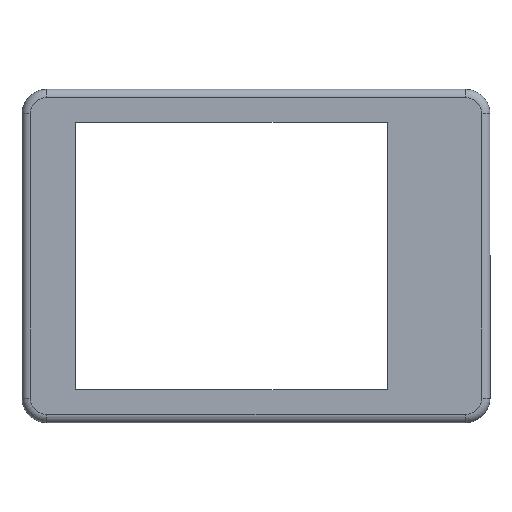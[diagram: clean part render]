
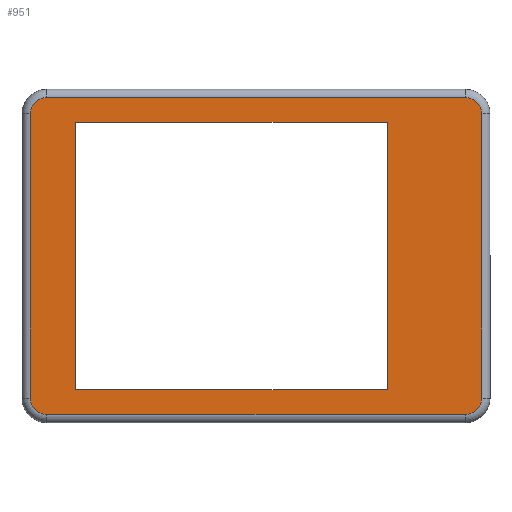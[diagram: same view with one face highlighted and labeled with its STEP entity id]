
A CAD part, top view. The second image highlights one B-rep face of the part: STEP entity #951.
In plain terms, the highlighted planar face has unit normal (0, 0, 1).
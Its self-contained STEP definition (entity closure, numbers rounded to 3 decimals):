
#12 = CARTESIAN_POINT ( 'NONE',  ( 0., 32.6, 8. ) ) ;
#14 = LINE ( 'NONE', #35, #762 ) ;
#31 = DIRECTION ( 'NONE',  ( -1., 0., 0. ) ) ;
#35 = CARTESIAN_POINT ( 'NONE',  ( 0., 32.6, 8. ) ) ;
#40 = LINE ( 'NONE', #12, #757 ) ;
#41 = DIRECTION ( 'NONE',  ( 0., -1., 0. ) ) ;
#149 = FACE_OUTER_BOUND ( 'NONE', #290, .T. ) ;
#150 = FACE_BOUND ( 'NONE', #280, .T. ) ;
#166 = DIRECTION ( 'NONE',  ( 1., 0., 0. ) ) ;
#172 = CARTESIAN_POINT ( 'NONE',  ( -3.5, -1., 8. ) ) ;
#179 = PLANE ( 'NONE',  #729 ) ;
#182 = DIRECTION ( 'NONE',  ( 0., 0., 1. ) ) ;
#280 = EDGE_LOOP ( 'NONE', ( #323, #344, #305, #354 ) ) ;
#290 = EDGE_LOOP ( 'NONE', ( #303, #330, #321, #325, #314, #350, #326, #304 ) ) ;
#303 = ORIENTED_EDGE ( 'NONE', *, *, #792, .T. ) ;
#304 = ORIENTED_EDGE ( 'NONE', *, *, #790, .T. ) ;
#305 = ORIENTED_EDGE ( 'NONE', *, *, #847, .F. ) ;
#314 = ORIENTED_EDGE ( 'NONE', *, *, #801, .T. ) ;
#321 = ORIENTED_EDGE ( 'NONE', *, *, #811, .T. ) ;
#323 = ORIENTED_EDGE ( 'NONE', *, *, #835, .F. ) ;
#325 = ORIENTED_EDGE ( 'NONE', *, *, #793, .T. ) ;
#326 = ORIENTED_EDGE ( 'NONE', *, *, #796, .T. ) ;
#330 = ORIENTED_EDGE ( 'NONE', *, *, #780, .T. ) ;
#344 = ORIENTED_EDGE ( 'NONE', *, *, #842, .F. ) ;
#350 = ORIENTED_EDGE ( 'NONE', *, *, #785, .T. ) ;
#354 = ORIENTED_EDGE ( 'NONE', *, *, #837, .F. ) ;
#362 = VERTEX_POINT ( 'NONE', #466 ) ;
#370 = VERTEX_POINT ( 'NONE', #462 ) ;
#404 = VERTEX_POINT ( 'NONE', #460 ) ;
#422 = VERTEX_POINT ( 'NONE', #473 ) ;
#424 = VERTEX_POINT ( 'NONE', #487 ) ;
#426 = VERTEX_POINT ( 'NONE', #488 ) ;
#427 = VERTEX_POINT ( 'NONE', #512 ) ;
#429 = VERTEX_POINT ( 'NONE', #475 ) ;
#430 = VERTEX_POINT ( 'NONE', #511 ) ;
#441 = VERTEX_POINT ( 'NONE', #497 ) ;
#444 = VERTEX_POINT ( 'NONE', #476 ) ;
#445 = VERTEX_POINT ( 'NONE', #507 ) ;
#460 = CARTESIAN_POINT ( 'NONE',  ( 0., 0., 8. ) ) ;
#462 = CARTESIAN_POINT ( 'NONE',  ( 38., 0., 8. ) ) ;
#466 = CARTESIAN_POINT ( 'NONE',  ( 38., 32.6, 8. ) ) ;
#473 = CARTESIAN_POINT ( 'NONE',  ( 0., 32.6, 8. ) ) ;
#475 = CARTESIAN_POINT ( 'NONE',  ( 49.5, -1., 8. ) ) ;
#476 = CARTESIAN_POINT ( 'NONE',  ( -5.5, 33.6, 8. ) ) ;
#487 = CARTESIAN_POINT ( 'NONE',  ( 49.5, 33.6, 8. ) ) ;
#488 = CARTESIAN_POINT ( 'NONE',  ( 47.5, 35.6, 8. ) ) ;
#497 = CARTESIAN_POINT ( 'NONE',  ( -5.5, -1., 8. ) ) ;
#507 = CARTESIAN_POINT ( 'NONE',  ( 47.5, -3., 8. ) ) ;
#511 = CARTESIAN_POINT ( 'NONE',  ( -3.5, 35.6, 8. ) ) ;
#512 = CARTESIAN_POINT ( 'NONE',  ( -3.5, -3., 8. ) ) ;
#521 = CARTESIAN_POINT ( 'NONE',  ( -3.5, 35.6, 8. ) ) ;
#523 = DIRECTION ( 'NONE',  ( 0., 0., 1. ) ) ;
#524 = DIRECTION ( 'NONE',  ( 1., 0., 0. ) ) ;
#525 = LINE ( 'NONE', #527, #888 ) ;
#526 = DIRECTION ( 'NONE',  ( 0., 0., 1. ) ) ;
#527 = CARTESIAN_POINT ( 'NONE',  ( 49.5, 33.6, 8. ) ) ;
#528 = DIRECTION ( 'NONE',  ( 0., 1., 0. ) ) ;
#535 = CARTESIAN_POINT ( 'NONE',  ( -3.5, -1., 8. ) ) ;
#537 = CARTESIAN_POINT ( 'NONE',  ( 47.5, -1., 8. ) ) ;
#542 = DIRECTION ( 'NONE',  ( 0., 0., 1. ) ) ;
#549 = CARTESIAN_POINT ( 'NONE',  ( 47.5, 33.6, 8. ) ) ;
#551 = CARTESIAN_POINT ( 'NONE',  ( -3.5, 33.6, 8. ) ) ;
#552 = DIRECTION ( 'NONE',  ( 1., 0., 0. ) ) ;
#553 = DIRECTION ( 'NONE',  ( 0., 0., 1. ) ) ;
#556 = LINE ( 'NONE', #521, #883 ) ;
#557 = DIRECTION ( 'NONE',  ( -1., 0., 0. ) ) ;
#559 = DIRECTION ( 'NONE',  ( 1., 0., 0. ) ) ;
#561 = DIRECTION ( 'NONE',  ( 1., 0., 0. ) ) ;
#562 = DIRECTION ( 'NONE',  ( 0., -1., 0. ) ) ;
#582 = DIRECTION ( 'NONE',  ( 1., 0., 0. ) ) ;
#587 = LINE ( 'NONE', #595, #892 ) ;
#588 = LINE ( 'NONE', #593, #899 ) ;
#593 = CARTESIAN_POINT ( 'NONE',  ( -5.5, -1., 8. ) ) ;
#595 = CARTESIAN_POINT ( 'NONE',  ( 47.5, -3., 8. ) ) ;
#659 = LINE ( 'NONE', #660, #755 ) ;
#660 = CARTESIAN_POINT ( 'NONE',  ( 38., 32.6, 8. ) ) ;
#675 = DIRECTION ( 'NONE',  ( 0., 1., 0. ) ) ;
#681 = CARTESIAN_POINT ( 'NONE',  ( 0., 0., 8. ) ) ;
#687 = LINE ( 'NONE', #681, #748 ) ;
#689 = DIRECTION ( 'NONE',  ( 1., 0., 0. ) ) ;
#729 = AXIS2_PLACEMENT_3D ( 'NONE', #172, #182, #166 ) ;
#748 = VECTOR ( 'NONE', #689, 1000. ) ;
#755 = VECTOR ( 'NONE', #675, 1000. ) ;
#757 = VECTOR ( 'NONE', #41, 1000. ) ;
#762 = VECTOR ( 'NONE', #31, 1000. ) ;
#780 = EDGE_CURVE ( 'NONE', #430, #444, #866, .T. ) ;
#785 = EDGE_CURVE ( 'NONE', #445, #429, #871, .T. ) ;
#790 = EDGE_CURVE ( 'NONE', #424, #426, #882, .T. ) ;
#792 = EDGE_CURVE ( 'NONE', #426, #430, #556, .T. ) ;
#793 = EDGE_CURVE ( 'NONE', #441, #427, #878, .T. ) ;
#796 = EDGE_CURVE ( 'NONE', #429, #424, #525, .T. ) ;
#801 = EDGE_CURVE ( 'NONE', #427, #445, #587, .T. ) ;
#811 = EDGE_CURVE ( 'NONE', #444, #441, #588, .T. ) ;
#835 = EDGE_CURVE ( 'NONE', #404, #370, #687, .T. ) ;
#837 = EDGE_CURVE ( 'NONE', #370, #362, #659, .T. ) ;
#842 = EDGE_CURVE ( 'NONE', #422, #404, #40, .T. ) ;
#847 = EDGE_CURVE ( 'NONE', #362, #422, #14, .T. ) ;
#865 = AXIS2_PLACEMENT_3D ( 'NONE', #537, #553, #524 ) ;
#866 = CIRCLE ( 'NONE', #869, 2. ) ;
#869 = AXIS2_PLACEMENT_3D ( 'NONE', #551, #542, #552 ) ;
#871 = CIRCLE ( 'NONE', #865, 2. ) ;
#878 = CIRCLE ( 'NONE', #881, 2. ) ;
#879 = AXIS2_PLACEMENT_3D ( 'NONE', #549, #523, #559 ) ;
#881 = AXIS2_PLACEMENT_3D ( 'NONE', #535, #526, #561 ) ;
#882 = CIRCLE ( 'NONE', #879, 2. ) ;
#883 = VECTOR ( 'NONE', #557, 1000. ) ;
#888 = VECTOR ( 'NONE', #528, 1000. ) ;
#892 = VECTOR ( 'NONE', #582, 1000. ) ;
#899 = VECTOR ( 'NONE', #562, 1000. ) ;
#951 = ADVANCED_FACE ( 'NONE', ( #149, #150 ), #179, .T. ) ;
